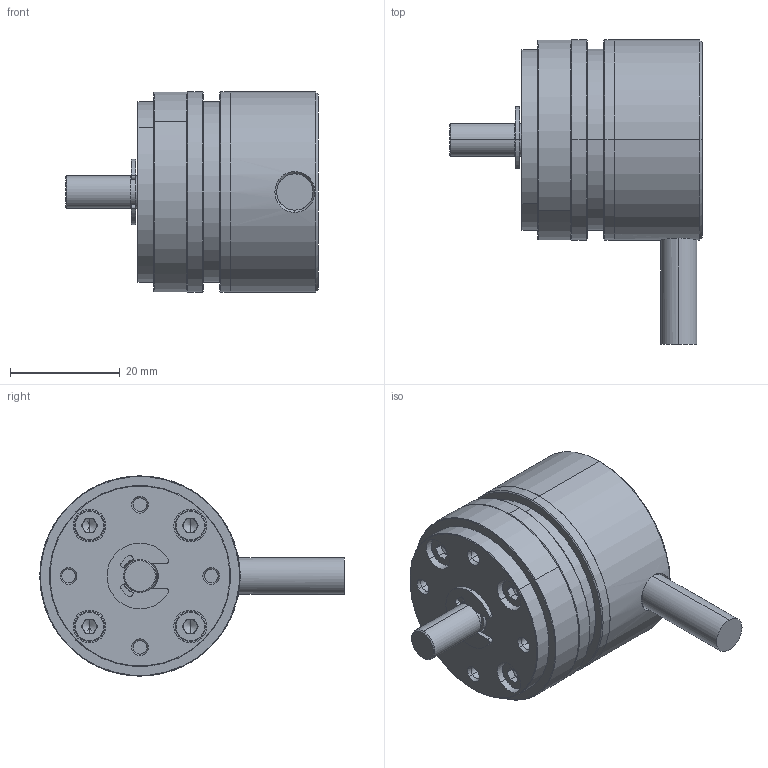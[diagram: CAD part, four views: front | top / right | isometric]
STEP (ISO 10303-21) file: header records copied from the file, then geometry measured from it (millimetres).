
FILE_DESCRIPTION (( 'STEP AP214' ), '1' );
FILE_NAME ('ﾋﾈﾐ-ﾌﾈ137ﾆ.STEP', '2017-05-23T08:32:48', ( '' ), ( '' ), 'SwSTEP 2.0', 'SolidWorks 2013', '' );
FILE_SCHEMA (( 'AUTOMOTIVE_DESIGN' ));
Length unit declared in the file: millimetre
Products named in the file (1): ﾋﾈﾐ-ﾌﾈ137ﾆ
Bounding box: 46.1 x 55.52 x 36.53 mm (x, y, z)
Volume: 24297.8 mm3; surface area: 21141 mm2
Topology: 20 solids, 20 shells, 1222 faces, 3289 edges, 2072 vertices
Faces by surface type: cone 380, cylinder 351, sphere 192, plane 146, torus 140, bspline 13
Entity records: 60143 total; most frequent: CARTESIAN_POINT 15873, DIRECTION 6598, ORIENTED_EDGE 6530, EDGE_CURVE 3265, AXIS2_PLACEMENT_3D 2856, VERTEX_POINT 2072, CIRCLE 1646, EDGE_LOOP 1347
